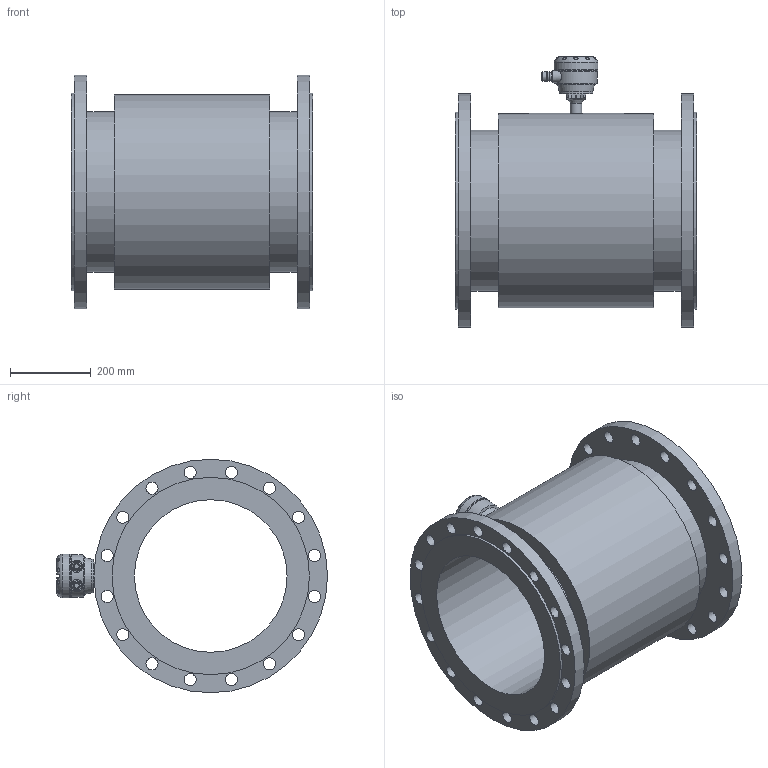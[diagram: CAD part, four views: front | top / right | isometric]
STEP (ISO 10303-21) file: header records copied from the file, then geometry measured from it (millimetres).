
FILE_DESCRIPTION (( 'STEP AP203' ), '1' );
FILE_NAME ('KROHNE_OPTIFLUX_2-4000W_DIN2633_DN400_PN16.STEP', '2011-04-26T11:24:44', ( '' ), ( '' ), 'SwSTEP 2.0', 'SolidWorks 2010', '' );
FILE_SCHEMA (( 'CONFIG_CONTROL_DESIGN' ));
Length unit declared in the file: millimetre
Products named in the file (1): KROHNE_OPTIFLUX_2-4000W_DIN2633_DN400_PN16
Bounding box: 600 x 672.99 x 580 mm (x, y, z)
Volume: 39668173.8 mm3; surface area: 2460712.4 mm2
Topology: 14 solids, 14 shells, 359 faces, 899 edges, 590 vertices
Faces by surface type: plane 158, cylinder 111, bspline 53, torus 18, sphere 13, cone 6
Full cylindrical faces by diameter (mm): 4 x4, 6.6 x8, 13 x2, 20 x2, 23.5 x4, 29 x1, 30 x34, 84 x2, 109 x1, 379 x1, 399 x2, 483 x1, 490 x2, 580 x2
Entity records: 14523 total; most frequent: CARTESIAN_POINT 6576, ORIENTED_EDGE 1522, DIRECTION 1509, EDGE_CURVE 761, AXIS2_PLACEMENT_3D 573, EDGE_LOOP 566, VERTEX_POINT 545, FACE_OUTER_BOUND 442
